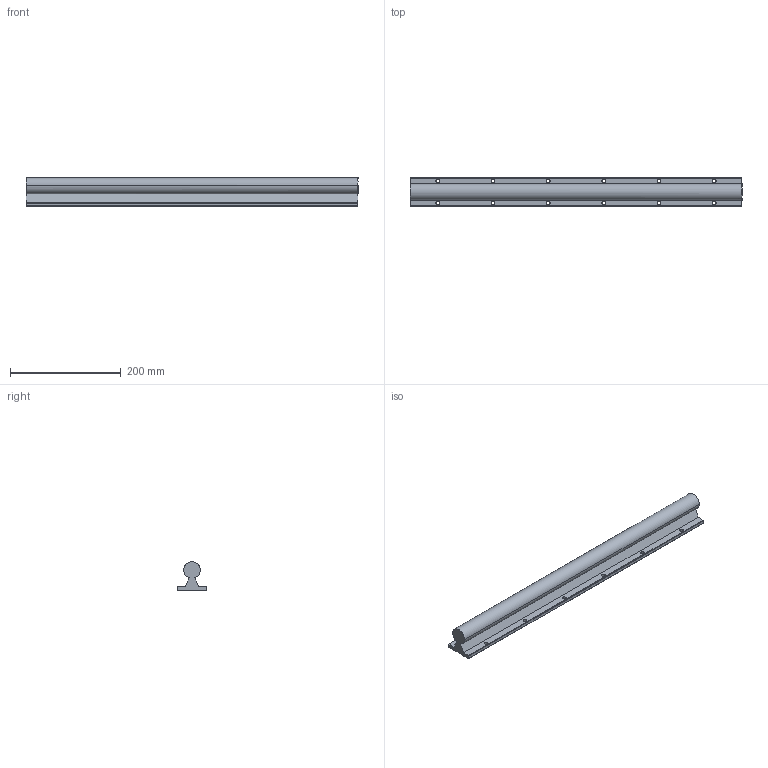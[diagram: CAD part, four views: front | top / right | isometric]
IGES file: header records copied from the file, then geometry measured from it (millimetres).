
Global section: file name: No Iges File Name specified; native system: AutoDesk Inventor R10; preprocessor: AutoDesk Inventor Iges Exporter R10; author: No Author specified; organization: No Organization specified; date: 20101221.090755; units: millimetre
Bounding box: 600 x 52 x 52 mm (x, y, z)
Surface area: 132957.7 mm2 (no closed solid volume)
Topology: 0 solids, 0 shells, 146 faces, 988 edges, 976 vertices
Faces by surface type: bspline 146
